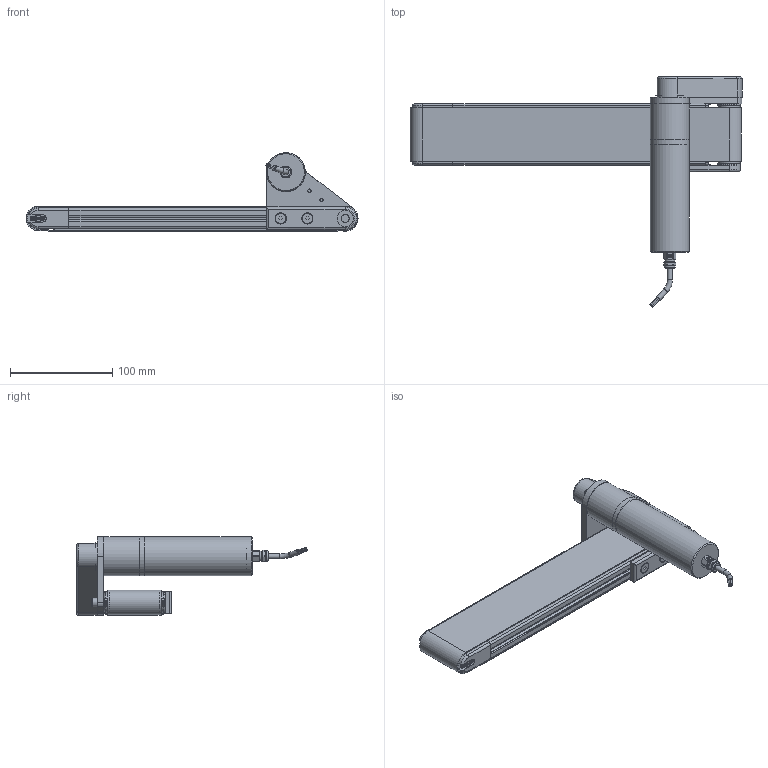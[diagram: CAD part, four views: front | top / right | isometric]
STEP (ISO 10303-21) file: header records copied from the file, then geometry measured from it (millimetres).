
FILE_DESCRIPTION(/* description */ (''),/* implementation_level */ '2;1');
FILE_NAME(/* name */ 'G:\DATEN\CAD\Förderband\Marketing\3D-Modelle (Standard)\BK-20-60\BK-20-60-1-K.stp',/* time_stamp */ '2019-05-13T08:17:35+02:00',/* author */ ('melanie.ochs'),/* organization */ (''),/* preprocessor_version */ 'ST-DEVELOPER v17',/* originating_system */ 'Autodesk Inventor 2019',/* authorisation */ '');
FILE_SCHEMA (('CONFIG_CONTROL_DESIGN'));
Length unit declared in the file: millimetre
Products named in the file (1): BK-20-60-1-K
Bounding box: 324.51 x 225.59 x 76.73 mm (x, y, z)
Volume: 463085.4 mm3; surface area: 318083.5 mm2
Topology: 43 solids, 44 shells, 1058 faces, 2813 edges, 1903 vertices
Faces by surface type: plane 481, cylinder 375, cone 93, bspline 70, torus 39
Full cylindrical faces by diameter (mm): 1 x6, 2 x2, 2.459 x4, 2.5 x8, 2.729 x4, 3 x4, 3.1 x2, 3.242 x4, 3.5 x4, 4 x38, 4.134 x2, 4.3 x3, 4.4 x2, 4.917 x3, 5 x17, 5.2 x2, 5.4 x2, 6 x3, 6.773 x1, 6.917 x1, 7 x5, 8 x2, 8.5 x4, 8.773 x1, 9.5 x2, 10 x8, 11 x1, 12 x2, 16 x2, 19 x4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
Entity records: 42933 total; most frequent: CARTESIAN_POINT 15543, ORIENTED_EDGE 5596, DIRECTION 5388, EDGE_CURVE 2798, AXIS2_PLACEMENT_3D 1996, VERTEX_POINT 1903, LINE 1396, VECTOR 1396
